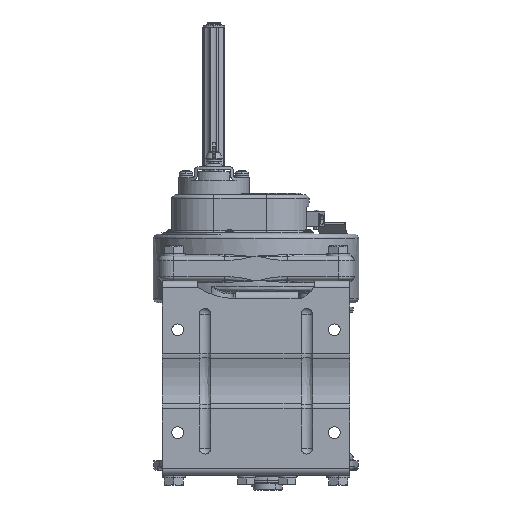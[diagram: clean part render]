
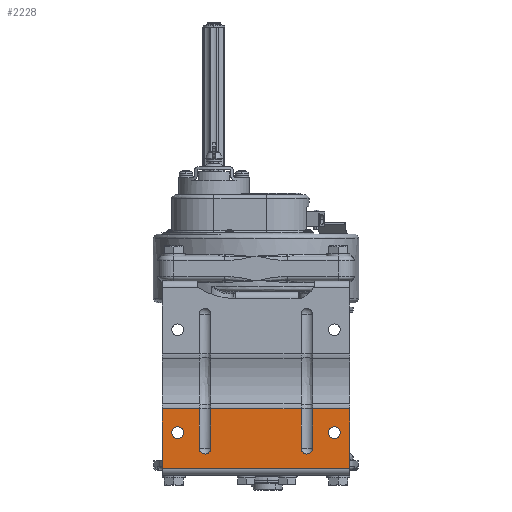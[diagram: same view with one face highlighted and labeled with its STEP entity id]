
A CAD part, front view. The second image highlights one B-rep face of the part: STEP entity #2228.
In plain terms, the highlighted planar face has unit normal (0, -1, 0).
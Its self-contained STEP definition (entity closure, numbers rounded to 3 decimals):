
#2228=ADVANCED_FACE('',(#24106,#24107,#24108),#24105,.T.);
#24105=PLANE('',#45609);
#24106=FACE_OUTER_BOUND('',#45610,.T.);
#24107=FACE_BOUND('',#45611,.T.);
#24108=FACE_BOUND('',#45612,.T.);
#45606=CARTESIAN_POINT('',(11.,-36.383,-223.2));
#45607=DIRECTION('',(0.,-1.,0.));
#45608=DIRECTION('',(0.,0.,1.));
#45609=AXIS2_PLACEMENT_3D('',#45606,#45607,#45608);
#45610=EDGE_LOOP('',(#61401,#61402,#61403,#61404,#61405,#61406,#61407,#61408,#61409,#61410,#61411,#61412));
#45611=EDGE_LOOP('',(#61413,#61414));
#45612=EDGE_LOOP('',(#61415,#61416));
#61401=ORIENTED_EDGE('',*,*,#69993,.T.);
#61402=ORIENTED_EDGE('',*,*,#69998,.F.);
#61403=ORIENTED_EDGE('',*,*,#69999,.T.);
#61404=ORIENTED_EDGE('',*,*,#70000,.T.);
#61405=ORIENTED_EDGE('',*,*,#69997,.T.);
#61406=ORIENTED_EDGE('',*,*,#69973,.F.);
#61407=ORIENTED_EDGE('',*,*,#69969,.F.);
#61408=ORIENTED_EDGE('',*,*,#69972,.T.);
#61409=ORIENTED_EDGE('',*,*,#69964,.T.);
#61410=ORIENTED_EDGE('',*,*,#67083,.F.);
#61411=ORIENTED_EDGE('',*,*,#69895,.F.);
#61412=ORIENTED_EDGE('',*,*,#67079,.T.);
#61413=ORIENTED_EDGE('',*,*,#70001,.F.);
#61414=ORIENTED_EDGE('',*,*,#70002,.F.);
#61415=ORIENTED_EDGE('',*,*,#70003,.F.);
#61416=ORIENTED_EDGE('',*,*,#70004,.F.);
#67079=EDGE_CURVE('',#91253,#91246,#91254,.T.);
#67083=EDGE_CURVE('',#91272,#91279,#91280,.T.);
#69895=EDGE_CURVE('',#91253,#91272,#109978,.T.);
#69964=EDGE_CURVE('',#110404,#91279,#110418,.T.);
#69969=EDGE_CURVE('',#110445,#110453,#110454,.T.);
#69972=EDGE_CURVE('',#110445,#110404,#110473,.T.);
#69973=EDGE_CURVE('',#110453,#110466,#110479,.T.);
#69993=EDGE_CURVE('',#91246,#110606,#110613,.T.);
#69997=EDGE_CURVE('',#110619,#110466,#110640,.T.);
#69998=EDGE_CURVE('',#110646,#110606,#110647,.T.);
#69999=EDGE_CURVE('',#110646,#110653,#110654,.T.);
#70000=EDGE_CURVE('',#110653,#110619,#110660,.T.);
#70001=EDGE_CURVE('',#110666,#110667,#110668,.T.);
#70002=EDGE_CURVE('',#110667,#110666,#110674,.T.);
#70003=EDGE_CURVE('',#110680,#110681,#110682,.T.);
#70004=EDGE_CURVE('',#110681,#110680,#110688,.T.);
#91246=VERTEX_POINT('',#130311);
#91253=VERTEX_POINT('',#130316);
#91254=LINE('',#130317,#130318);
#91272=VERTEX_POINT('',#130327);
#91279=VERTEX_POINT('',#130332);
#91280=LINE('',#130333,#130334);
#109978=LINE('',#142373,#142374);
#110404=VERTEX_POINT('',#142616);
#110418=LINE('',#142625,#142626);
#110445=VERTEX_POINT('',#142643);
#110453=VERTEX_POINT('',#142649);
#110454=CIRCLE('',#142653,6.);
#110466=VERTEX_POINT('',#142658);
#110473=LINE('',#142663,#142664);
#110479=LINE('',#142666,#142667);
#110606=VERTEX_POINT('',#142745);
#110613=LINE('',#142750,#142751);
#110619=VERTEX_POINT('',#142753);
#110640=LINE('',#142767,#142768);
#110646=VERTEX_POINT('',#142770);
#110647=LINE('',#142771,#142772);
#110653=VERTEX_POINT('',#142774);
#110654=CIRCLE('',#142778,6.);
#110660=LINE('',#142779,#142780);
#110666=VERTEX_POINT('',#142782);
#110667=VERTEX_POINT('',#142783);
#110668=CIRCLE('',#142787,6.);
#110674=CIRCLE('',#142791,6.);
#110680=VERTEX_POINT('',#142792);
#110681=VERTEX_POINT('',#142793);
#110682=CIRCLE('',#142797,6.);
#110688=CIRCLE('',#142801,6.);
#130311=CARTESIAN_POINT('',(1.,-36.383,-156.096));
#130316=CARTESIAN_POINT('',(1.,-36.383,-217.1));
#130317=CARTESIAN_POINT('',(1.,-36.383,-217.1));
#130318=VECTOR('',#130319,61.004);
#130319=DIRECTION('',(0.,0.,1.));
#130327=CARTESIAN_POINT('',(-191.,-36.383,-217.1));
#130332=CARTESIAN_POINT('',(-191.,-36.383,-156.096));
#130333=CARTESIAN_POINT('',(-191.,-36.383,-217.1));
#130334=VECTOR('',#130335,61.004);
#130335=DIRECTION('',(0.,0.,1.));
#142373=CARTESIAN_POINT('',(1.,-36.383,-217.1));
#142374=VECTOR('',#142375,192.);
#142375=DIRECTION('',(-1.,0.,0.));
#142616=CARTESIAN_POINT('',(-153.,-36.383,-156.096));
#142625=CARTESIAN_POINT('',(-153.,-36.383,-156.096));
#142626=VECTOR('',#142627,38.);
#142627=DIRECTION('',(-1.,0.,0.));
#142643=CARTESIAN_POINT('',(-153.,-36.383,-196.302));
#142649=CARTESIAN_POINT('',(-141.,-36.383,-196.302));
#142650=CARTESIAN_POINT('',(-147.,-36.383,-196.302));
#142651=DIRECTION('',(0.,-1.,0.));
#142652=DIRECTION('',(1.,0.,0.));
#142653=AXIS2_PLACEMENT_3D('',#142650,#142651,#142652);
#142658=CARTESIAN_POINT('',(-141.,-36.383,-156.096));
#142663=CARTESIAN_POINT('',(-153.,-36.383,-196.302));
#142664=VECTOR('',#142665,40.206);
#142665=DIRECTION('',(0.,0.,1.));
#142666=CARTESIAN_POINT('',(-141.,-36.383,-196.302));
#142667=VECTOR('',#142668,40.206);
#142668=DIRECTION('',(0.,0.,1.));
#142745=CARTESIAN_POINT('',(-37.,-36.383,-156.096));
#142750=CARTESIAN_POINT('',(1.,-36.383,-156.096));
#142751=VECTOR('',#142752,38.);
#142752=DIRECTION('',(-1.,0.,0.));
#142753=CARTESIAN_POINT('',(-49.,-36.383,-156.096));
#142767=CARTESIAN_POINT('',(-49.,-36.383,-156.096));
#142768=VECTOR('',#142769,92.);
#142769=DIRECTION('',(-1.,0.,0.));
#142770=CARTESIAN_POINT('',(-37.,-36.383,-196.302));
#142771=CARTESIAN_POINT('',(-37.,-36.383,-196.302));
#142772=VECTOR('',#142773,40.206);
#142773=DIRECTION('',(0.,0.,1.));
#142774=CARTESIAN_POINT('',(-49.,-36.383,-196.302));
#142775=CARTESIAN_POINT('',(-43.,-36.383,-196.302));
#142776=DIRECTION('',(0.,1.,0.));
#142777=DIRECTION('',(1.,0.,0.));
#142778=AXIS2_PLACEMENT_3D('',#142775,#142776,#142777);
#142779=CARTESIAN_POINT('',(-49.,-36.383,-196.302));
#142780=VECTOR('',#142781,40.206);
#142781=DIRECTION('',(0.,0.,1.));
#142782=CARTESIAN_POINT('',(-15.,-36.383,-186.4));
#142783=CARTESIAN_POINT('',(-15.,-36.383,-174.4));
#142784=CARTESIAN_POINT('',(-15.,-36.383,-180.4));
#142785=DIRECTION('',(0.,-1.,0.));
#142786=DIRECTION('',(0.,0.,1.));
#142787=AXIS2_PLACEMENT_3D('',#142784,#142785,#142786);
#142788=CARTESIAN_POINT('',(-15.,-36.383,-180.4));
#142789=DIRECTION('',(0.,-1.,0.));
#142790=DIRECTION('',(0.,0.,1.));
#142791=AXIS2_PLACEMENT_3D('',#142788,#142789,#142790);
#142792=CARTESIAN_POINT('',(-175.,-36.383,-186.4));
#142793=CARTESIAN_POINT('',(-175.,-36.383,-174.4));
#142794=CARTESIAN_POINT('',(-175.,-36.383,-180.4));
#142795=DIRECTION('',(0.,-1.,0.));
#142796=DIRECTION('',(0.,0.,1.));
#142797=AXIS2_PLACEMENT_3D('',#142794,#142795,#142796);
#142798=CARTESIAN_POINT('',(-175.,-36.383,-180.4));
#142799=DIRECTION('',(0.,-1.,0.));
#142800=DIRECTION('',(0.,0.,1.));
#142801=AXIS2_PLACEMENT_3D('',#142798,#142799,#142800);
